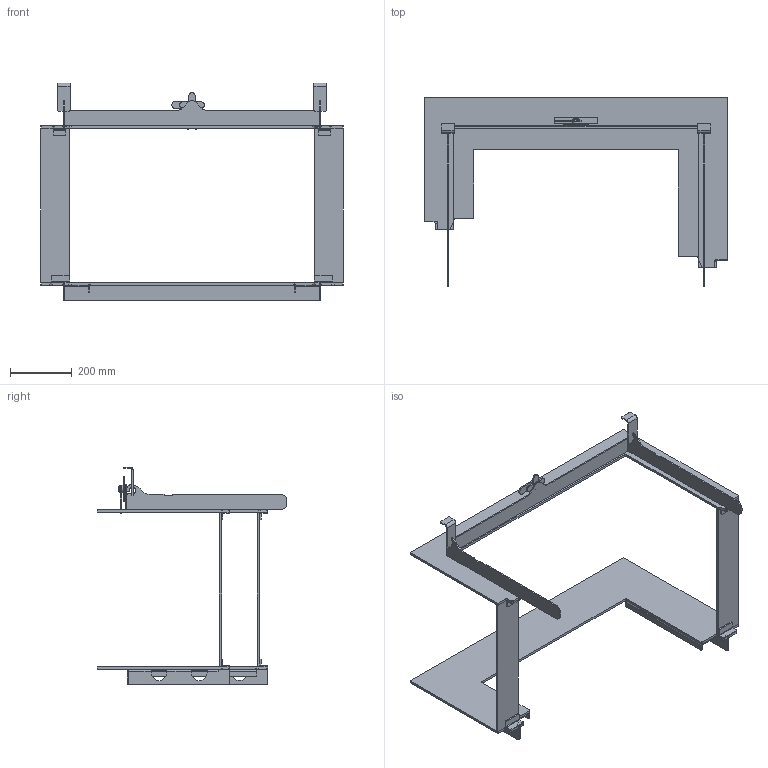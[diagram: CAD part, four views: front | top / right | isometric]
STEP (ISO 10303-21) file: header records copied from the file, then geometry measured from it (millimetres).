
FILE_DESCRIPTION(/* description */ (''),/* implementation_level */ '2;1');
FILE_NAME(/* name */ 'C:\ADSK_DM_WS\CAD_3D\03 Geraete\RAS 50x80x42\Zeichnungen\2023-00945.stp',/* time_stamp */ '2023-04-27T07:01:57+02:00',/* author */ ('CPI'),/* organization */ (''),/* preprocessor_version */ 'ST-DEVELOPER v18.1',/* originating_system */ 'Autodesk Inventor 2022',/* authorisation */ '');
FILE_SCHEMA (('AUTOMOTIVE_DESIGN { 1 0 10303 214 3 1 1 }'));
Length unit declared in the file: millimetre
Products named in the file (1): 2023-01123
Bounding box: 975 x 613.15 x 702 mm (x, y, z)
Volume: 5129099.7 mm3; surface area: 1532576.3 mm2
Topology: 4 solids, 4 shells, 520 faces, 1453 edges, 908 vertices
Faces by surface type: plane 285, cylinder 221, bspline 10, cone 4
Full cylindrical faces by diameter (mm): 10 x1, 10.21 x2, 16 x1, 20 x2, 25 x2
Entity records: 17124 total; most frequent: CARTESIAN_POINT 3132, ORIENTED_EDGE 2906, DIRECTION 2902, EDGE_CURVE 1453, LINE 970, VECTOR 970, AXIS2_PLACEMENT_3D 966, VERTEX_POINT 908
